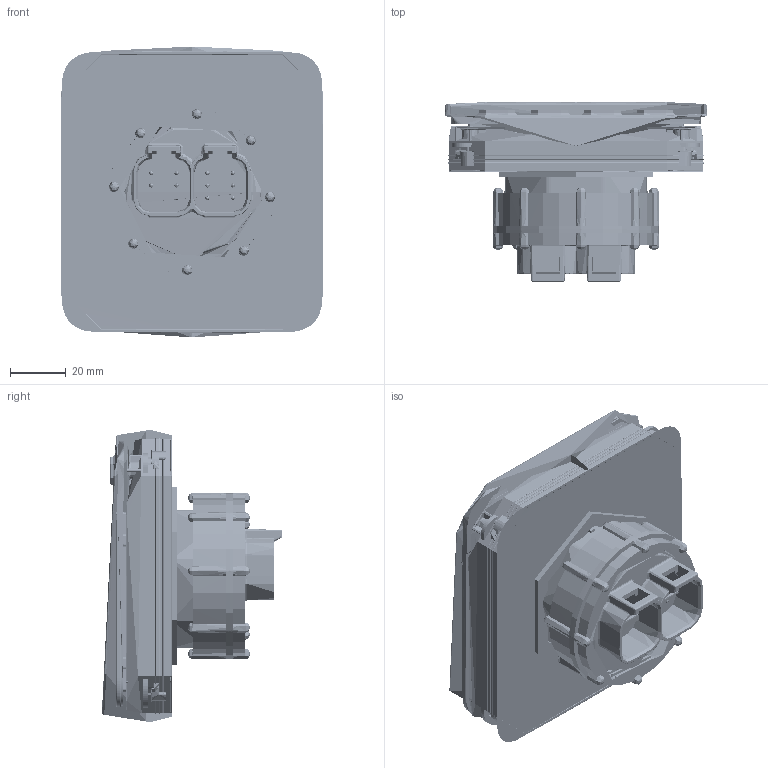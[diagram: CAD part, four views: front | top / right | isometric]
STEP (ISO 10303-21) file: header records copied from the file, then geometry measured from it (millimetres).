
FILE_DESCRIPTION (( 'STEP AP203' ), '1' );
FILE_NAME ('ENO-ROC-K01#01_002_Rocky.step', '2024-06-12T07:25:13', ( '' ), ( '' ), 'SwSTEP 2.0', 'SolidWorks 2022', '' );
FILE_SCHEMA (( 'CONFIG_CONTROL_DESIGN' ));
Length unit declared in the file: millimetre
Products named in the file (15): ENO-ROC-A03#_Backshell_subassembly; ENO-ROC-G08#_USB_Plug; EJOT_Delta_PT_configurable_EJOT Delta PT Schraube 30x10 WN5451; ENO-ROC-G05#_Keypad; Label_50x15; ENO-ROC-K01#01_002_Rocky; ENO-ROC-G01#_Front_shell; FC03A551SG01_2; ENO-ROC-G02#_Back_shell; 05053374; ENO-ROC-G07#_Sealing_Inside; ENO-ROC-A04#_Frontshell_subassembly; ENO-ROC-P01_3D_200; ENO-ROC-G13#_Gasket; DAM-100119
Assembly tree (18 placements, depth 3):
  ENO-ROC-K01#01_002_Rocky
    ENO-ROC-A03#_Backshell_subassembly
      ENO-ROC-G02#_Back_shell
      ENO-ROC-G07#_Sealing_Inside
      ENO-ROC-G08#_USB_Plug
      ENO-ROC-G13#_Gasket
      DAM-100119
    ENO-ROC-A04#_Frontshell_subassembly
      ENO-ROC-G01#_Front_shell
      ENO-ROC-G05#_Keypad
    FC03A551SG01_2
    05053374
    ENO-ROC-P01_3D_200
    Label_50x15  x2
    EJOT_Delta_PT_configurable_EJOT Delta PT Schraube 30x10 WN5451  x4
Bounding box: 94.41 x 64.79 x 105.01 mm (x, y, z)
Topology: 41 solids, 897 shells, 27228 faces, 68388 edges, 41585 vertices
Faces by surface type: plane 15089, cylinder 6052, bspline 5390, cone 395, torus 229, sphere 73
Entity records: 981690 total; most frequent: CARTESIAN_POINT 379183, ORIENTED_EDGE 132630, DIRECTION 110929, EDGE_CURVE 66378, LINE 43213, VECTOR 43213, VERTEX_POINT 41401, AXIS2_PLACEMENT_3D 33858
